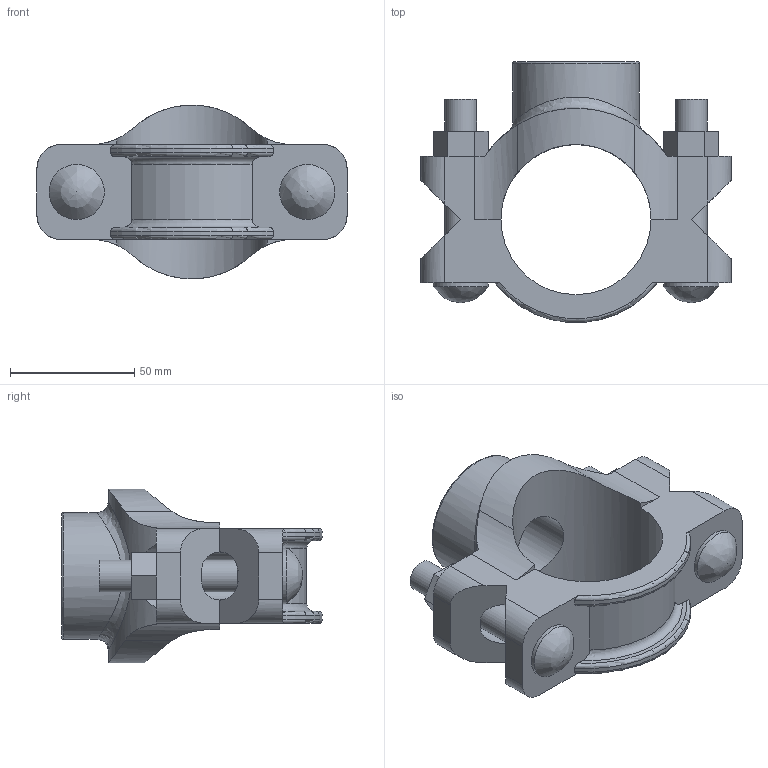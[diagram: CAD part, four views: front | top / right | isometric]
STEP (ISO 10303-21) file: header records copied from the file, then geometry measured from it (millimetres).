
FILE_DESCRIPTION(/* description */ ('VIC SS MECHANICAL T BRANCH OUTLET STYLE 422 (BSPT)','CAx-IF Rec.Pracs.---Representation and Presentation of Product Manufacturing Information (PMI)---4.0---2014-10-13'),/* implementation_level */ '2;1');
FILE_NAME(/* name */ 'C:\Files for Export\422\STEP\Victaulic_SS-OGS_Mech-Tee Out_Style 422 (BSPT)\Victaulic_SS-OGS_Mech-Tee Out_Style 422 (BSPT)_02.0x01.0 (50x25).stp',/* time_stamp */ '2023-03-28T14:26:02+02:00',/* author */ ('jheald'),/* organization */ ('Victaulic'),/* preprocessor_version */ 'ST-DEVELOPER v18.1',/* originating_system */ 'Autodesk Inventor 2020',/* authorisation */ '');
FILE_SCHEMA (('AP242_MANAGED_MODEL_BASED_3D_ENGINEERING_MIM_LF { 1 0 10303 442 1 1 4 }'));
Length unit declared in the file: inch
Products named in the file (1): 422-02.0x01.0
Bounding box: 124.71 x 104.76 x 69.78 mm (x, y, z)
Volume: 209363.9 mm3; surface area: 52372.8 mm2
Topology: 1 solids, 1 shells, 92 faces, 280 edges, 186 vertices
Faces by surface type: plane 48, cylinder 34, torus 7, bspline 3
Full cylindrical faces by diameter (mm): 12.7 x4, 22.225 x2, 26.987 x1, 33.401 x1, 50.8 x1, 60.325 x1
Entity records: 3914 total; most frequent: CARTESIAN_POINT 1146, ORIENTED_EDGE 556, DIRECTION 552, EDGE_CURVE 278, AXIS2_PLACEMENT_3D 200, VERTEX_POINT 186, LINE 152, VECTOR 152
